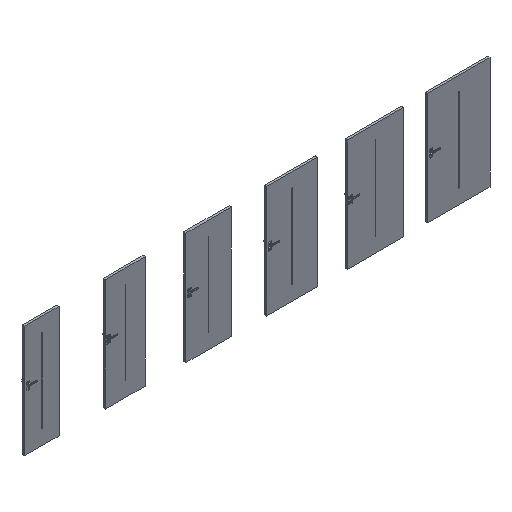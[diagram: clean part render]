
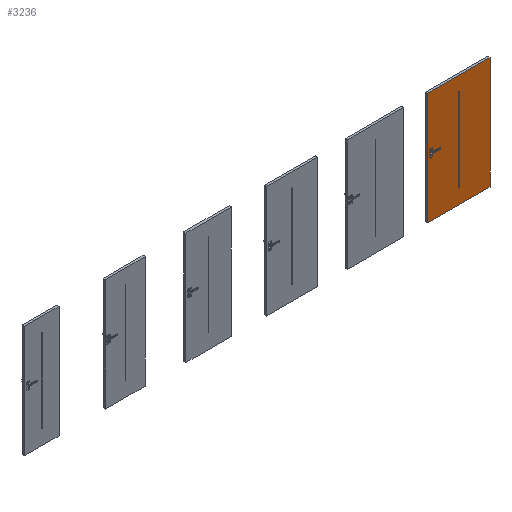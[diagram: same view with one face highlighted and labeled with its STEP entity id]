
A CAD part, isometric view. The second image highlights one B-rep face of the part: STEP entity #3236.
In plain terms, the highlighted planar face has unit normal (0, -1, 0).
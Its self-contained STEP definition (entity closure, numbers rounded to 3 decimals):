
#2002=CIRCLE('',#19577,3.);
#2003=CIRCLE('',#19578,3.);
#2378=FACE_BOUND('',#6066,.T.);
#2379=FACE_BOUND('',#6067,.T.);
#3236=ADVANCED_FACE('',(#2378,#2379),#3958,.F.);
#3958=PLANE('',#19579);
#6066=EDGE_LOOP('',(#9950,#9951,#9952,#9953));
#6067=EDGE_LOOP('',(#9954,#9955,#9956,#9957));
#9950=ORIENTED_EDGE('',*,*,#14806,.F.);
#9951=ORIENTED_EDGE('',*,*,#14807,.F.);
#9952=ORIENTED_EDGE('',*,*,#14808,.F.);
#9953=ORIENTED_EDGE('',*,*,#14809,.F.);
#9954=ORIENTED_EDGE('',*,*,#14810,.T.);
#9955=ORIENTED_EDGE('',*,*,#14811,.F.);
#9956=ORIENTED_EDGE('',*,*,#14812,.F.);
#9957=ORIENTED_EDGE('',*,*,#14813,.T.);
#12590=VERTEX_POINT('',#34321);
#12591=VERTEX_POINT('',#34322);
#12592=VERTEX_POINT('',#34324);
#12593=VERTEX_POINT('',#34326);
#12594=VERTEX_POINT('',#34329);
#12595=VERTEX_POINT('',#34330);
#12596=VERTEX_POINT('',#34332);
#12597=VERTEX_POINT('',#34334);
#14806=EDGE_CURVE('',#12590,#12591,#16554,.T.);
#14807=EDGE_CURVE('',#12592,#12590,#2002,.T.);
#14808=EDGE_CURVE('',#12593,#12592,#16555,.T.);
#14809=EDGE_CURVE('',#12591,#12593,#2003,.T.);
#14810=EDGE_CURVE('',#12594,#12595,#16556,.T.);
#14811=EDGE_CURVE('',#12596,#12595,#16557,.T.);
#14812=EDGE_CURVE('',#12597,#12596,#16558,.T.);
#14813=EDGE_CURVE('',#12597,#12594,#16559,.T.);
#16554=LINE('',#34320,#17922);
#16555=LINE('',#34325,#17923);
#16556=LINE('',#34328,#17924);
#16557=LINE('',#34331,#17925);
#16558=LINE('',#34333,#17926);
#16559=LINE('',#34335,#17927);
#17922=VECTOR('',#23561,1.);
#17923=VECTOR('',#23564,1.);
#17924=VECTOR('',#23567,1.);
#17925=VECTOR('',#23568,1.);
#17926=VECTOR('',#23569,1.);
#17927=VECTOR('',#23570,1.);
#19577=AXIS2_PLACEMENT_3D('',#34323,#23562,#23563);
#19578=AXIS2_PLACEMENT_3D('',#34327,#23565,#23566);
#19579=AXIS2_PLACEMENT_3D('',#34336,#23571,#23572);
#23561=DIRECTION('',(0.,0.,-1.));
#23562=DIRECTION('',(0.,-1.,0.));
#23563=DIRECTION('',(1.,0.,0.));
#23564=DIRECTION('',(0.,0.,1.));
#23565=DIRECTION('',(0.,-1.,0.));
#23566=DIRECTION('',(1.,0.,0.));
#23567=DIRECTION('',(1.,0.,0.));
#23568=DIRECTION('',(0.,0.,-1.));
#23569=DIRECTION('',(1.,0.,0.));
#23570=DIRECTION('',(0.,0.,-1.));
#23571=DIRECTION('',(0.,1.,0.));
#23572=DIRECTION('',(-1.,0.,0.));
#34320=CARTESIAN_POINT('',(7497.,-39.3,268.));
#34321=CARTESIAN_POINT('',(7497.,-39.3,1762.));
#34322=CARTESIAN_POINT('',(7497.,-39.3,268.));
#34323=CARTESIAN_POINT('',(7500.,-39.3,1762.));
#34324=CARTESIAN_POINT('',(7503.,-39.3,1762.));
#34325=CARTESIAN_POINT('',(7503.,-39.3,1762.));
#34326=CARTESIAN_POINT('',(7503.,-39.3,268.));
#34327=CARTESIAN_POINT('',(7500.,-39.3,268.));
#34328=CARTESIAN_POINT('',(7191.,-39.3,0.));
#34329=CARTESIAN_POINT('',(6941.,-39.3,0.));
#34330=CARTESIAN_POINT('',(8059.,-39.3,0.));
#34331=CARTESIAN_POINT('',(8059.,-39.3,2017.));
#34332=CARTESIAN_POINT('',(8059.,-39.3,2017.));
#34333=CARTESIAN_POINT('',(7191.,-39.3,2017.));
#34334=CARTESIAN_POINT('',(6941.,-39.3,2017.));
#34335=CARTESIAN_POINT('',(6941.,-39.3,2017.));
#34336=CARTESIAN_POINT('',(7191.,-39.3,2017.));
